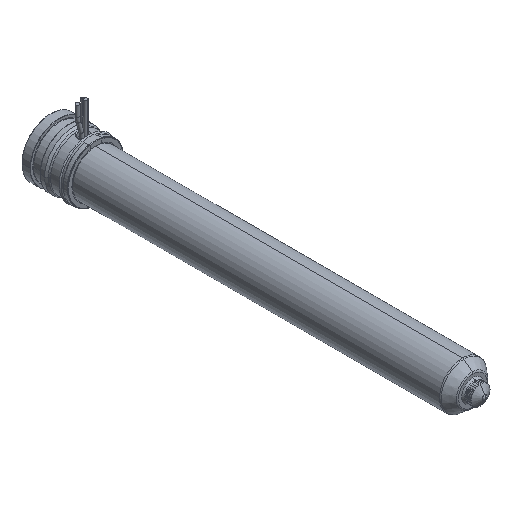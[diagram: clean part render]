
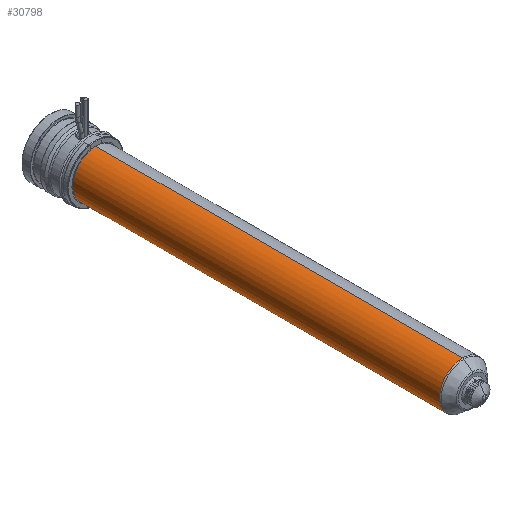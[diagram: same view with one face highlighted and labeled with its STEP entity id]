
A CAD part, isometric view. The second image highlights one B-rep face of the part: STEP entity #30798.
In plain terms, the highlighted cylindrical face has radius 12 mm (diameter 24 mm), a partial arc.
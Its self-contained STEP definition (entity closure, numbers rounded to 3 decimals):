
#30283=CARTESIAN_POINT('',(0.,-24.,0.));
#30284=DIRECTION('',(0.,1.,0.));
#30285=DIRECTION('',(0.,0.,-1.));
#30286=AXIS2_PLACEMENT_3D('',#30283,#30284,#30285);
#30291=DIRECTION('',(0.,1.,0.));
#30292=VECTOR('',#30291,189.736);
#30293=CARTESIAN_POINT('',(0.,-213.736,12.));
#30294=LINE('',#30293,#30292);
#30306=DIRECTION('',(0.,1.,0.));
#30307=VECTOR('',#30306,189.736);
#30308=CARTESIAN_POINT('',(0.,-213.736,-12.));
#30309=LINE('',#30308,#30307);
#30337=CARTESIAN_POINT('',(0.,-213.736,0.));
#30338=DIRECTION('',(0.,-1.,0.));
#30339=DIRECTION('',(0.,0.,1.));
#30340=AXIS2_PLACEMENT_3D('',#30337,#30338,#30339);
#30667=CARTESIAN_POINT('',(0.,-213.736,12.));
#30668=CARTESIAN_POINT('',(0.,-24.,12.));
#30669=VERTEX_POINT('',#30667);
#30670=VERTEX_POINT('',#30668);
#30671=CARTESIAN_POINT('',(0.,-213.736,-12.));
#30672=CARTESIAN_POINT('',(0.,-24.,-12.));
#30673=VERTEX_POINT('',#30671);
#30674=VERTEX_POINT('',#30672);
#30784=CARTESIAN_POINT('',(0.,-9.7,0.));
#30785=DIRECTION('',(0.,-1.,0.));
#30786=DIRECTION('',(0.,0.,1.));
#30787=AXIS2_PLACEMENT_3D('',#30784,#30785,#30786);
#30788=CYLINDRICAL_SURFACE('',#30787,12.);
#30790=ORIENTED_EDGE('',*,*,#30789,.F.);
#30792=ORIENTED_EDGE('',*,*,#30791,.T.);
#30794=ORIENTED_EDGE('',*,*,#30793,.T.);
#30795=ORIENTED_EDGE('',*,*,#30777,.T.);
#30796=EDGE_LOOP('',(#30790,#30792,#30794,#30795));
#30797=FACE_OUTER_BOUND('',#30796,.F.);
#30798=ADVANCED_FACE('',(#30797),#30788,.T.);
#30287=CIRCLE('',#30286,12.);
#30341=CIRCLE('',#30340,12.);
#30777=EDGE_CURVE('',#30674,#30670,#30287,.T.);
#30789=EDGE_CURVE('',#30669,#30670,#30294,.T.);
#30791=EDGE_CURVE('',#30669,#30673,#30341,.T.);
#30793=EDGE_CURVE('',#30673,#30674,#30309,.T.);
